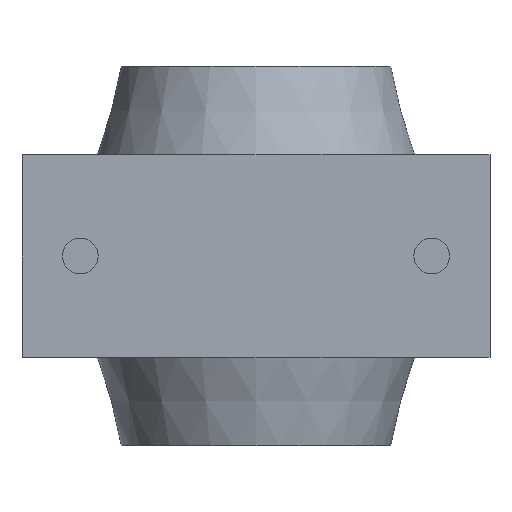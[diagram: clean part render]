
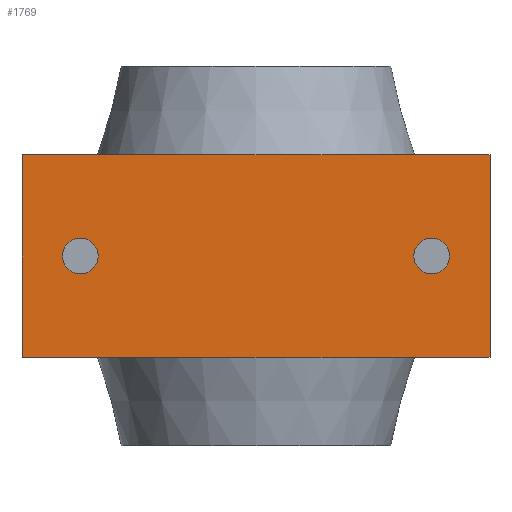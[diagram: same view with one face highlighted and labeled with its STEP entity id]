
A CAD part, front view. The second image highlights one B-rep face of the part: STEP entity #1769.
In plain terms, the highlighted planar face has unit normal (0, -1, 0).
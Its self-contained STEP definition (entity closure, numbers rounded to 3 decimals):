
#110=FACE_BOUND('',#316,.T.);
#111=FACE_BOUND('',#317,.T.);
#145=PLANE('',#2037);
#207=FACE_OUTER_BOUND('',#315,.T.);
#315=EDGE_LOOP('',(#1272,#1273,#1274,#1275));
#316=EDGE_LOOP('',(#1276,#1277));
#317=EDGE_LOOP('',(#1278,#1279));
#442=LINE('',#2936,#533);
#449=LINE('',#2952,#540);
#458=LINE('',#2987,#549);
#459=LINE('',#2989,#550);
#533=VECTOR('',#2306,10.);
#540=VECTOR('',#2319,10.);
#549=VECTOR('',#2362,10.);
#550=VECTOR('',#2365,10.);
#616=CIRCLE('',#1984,4.188);
#617=CIRCLE('',#1985,4.188);
#620=CIRCLE('',#1990,4.188);
#621=CIRCLE('',#1991,4.188);
#731=VERTEX_POINT('',#2865);
#732=VERTEX_POINT('',#2866);
#735=VERTEX_POINT('',#2876);
#736=VERTEX_POINT('',#2877);
#758=VERTEX_POINT('',#2933);
#759=VERTEX_POINT('',#2935);
#764=VERTEX_POINT('',#2949);
#765=VERTEX_POINT('',#2951);
#905=EDGE_CURVE('',#731,#732,#616,.T.);
#906=EDGE_CURVE('',#732,#731,#617,.T.);
#910=EDGE_CURVE('',#735,#736,#620,.T.);
#911=EDGE_CURVE('',#736,#735,#621,.T.);
#938=EDGE_CURVE('',#759,#758,#442,.T.);
#946=EDGE_CURVE('',#765,#764,#449,.T.);
#965=EDGE_CURVE('',#758,#765,#458,.T.);
#966=EDGE_CURVE('',#764,#759,#459,.T.);
#1272=ORIENTED_EDGE('',*,*,#965,.T.);
#1273=ORIENTED_EDGE('',*,*,#946,.T.);
#1274=ORIENTED_EDGE('',*,*,#966,.T.);
#1275=ORIENTED_EDGE('',*,*,#938,.T.);
#1276=ORIENTED_EDGE('',*,*,#905,.T.);
#1277=ORIENTED_EDGE('',*,*,#906,.T.);
#1278=ORIENTED_EDGE('',*,*,#910,.T.);
#1279=ORIENTED_EDGE('',*,*,#911,.T.);
#1769=ADVANCED_FACE('',(#207,#110,#111),#145,.F.);
#1984=AXIS2_PLACEMENT_3D('',#2867,#2232,#2233);
#1985=AXIS2_PLACEMENT_3D('',#2868,#2234,#2235);
#1990=AXIS2_PLACEMENT_3D('',#2878,#2245,#2246);
#1991=AXIS2_PLACEMENT_3D('',#2879,#2247,#2248);
#2037=AXIS2_PLACEMENT_3D('',#2990,#2366,#2367);
#2232=DIRECTION('center_axis',(0.,1.,0.));
#2233=DIRECTION('ref_axis',(-1.,0.,0.));
#2234=DIRECTION('center_axis',(0.,1.,0.));
#2235=DIRECTION('ref_axis',(-1.,0.,0.));
#2245=DIRECTION('center_axis',(0.,1.,0.));
#2246=DIRECTION('ref_axis',(-1.,0.,0.));
#2247=DIRECTION('center_axis',(0.,1.,0.));
#2248=DIRECTION('ref_axis',(-1.,0.,0.));
#2306=DIRECTION('',(1.,0.,0.));
#2319=DIRECTION('',(-1.,0.,0.));
#2362=DIRECTION('',(0.,0.,1.));
#2365=DIRECTION('',(0.,0.,-1.));
#2366=DIRECTION('center_axis',(0.,1.,0.));
#2367=DIRECTION('ref_axis',(0.,0.,1.));
#2865=CARTESIAN_POINT('',(-45.488,-47.6,0.));
#2866=CARTESIAN_POINT('',(-37.112,-47.6,0.));
#2867=CARTESIAN_POINT('Origin',(-41.3,-47.6,0.));
#2868=CARTESIAN_POINT('Origin',(-41.3,-47.6,0.));
#2876=CARTESIAN_POINT('',(37.112,-47.6,0.));
#2877=CARTESIAN_POINT('',(45.488,-47.6,0.));
#2878=CARTESIAN_POINT('Origin',(41.3,-47.6,0.));
#2879=CARTESIAN_POINT('Origin',(41.3,-47.6,0.));
#2933=CARTESIAN_POINT('',(55.,-47.6,-23.75));
#2935=CARTESIAN_POINT('',(-55.,-47.6,-23.75));
#2936=CARTESIAN_POINT('',(27.5,-47.6,-23.75));
#2949=CARTESIAN_POINT('',(-55.,-47.6,23.75));
#2951=CARTESIAN_POINT('',(55.,-47.6,23.75));
#2952=CARTESIAN_POINT('',(-27.5,-47.6,23.75));
#2987=CARTESIAN_POINT('',(55.,-47.6,11.875));
#2989=CARTESIAN_POINT('',(-55.,-47.6,-11.875));
#2990=CARTESIAN_POINT('Origin',(0.,-47.6,0.));
